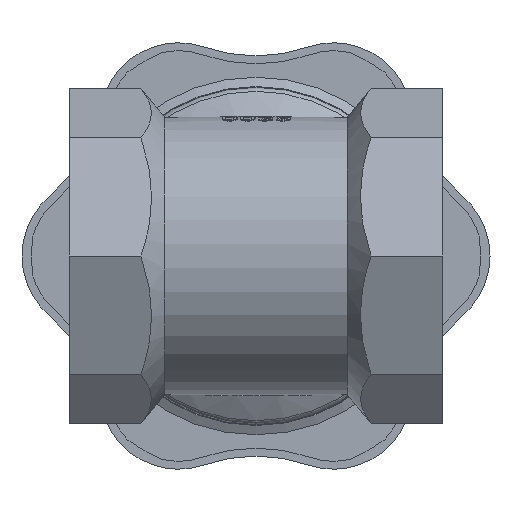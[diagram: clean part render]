
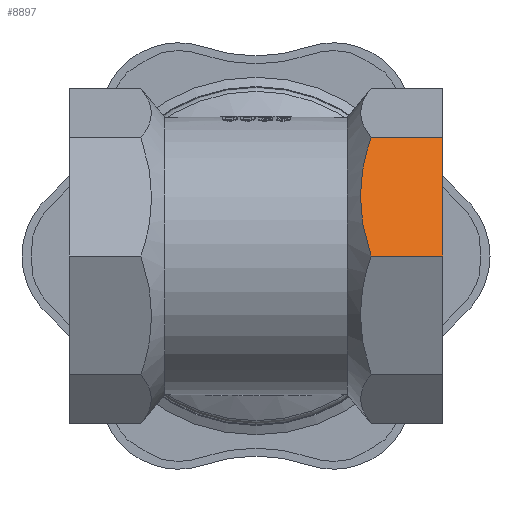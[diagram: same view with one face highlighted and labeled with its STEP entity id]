
A CAD part, front view. The second image highlights one B-rep face of the part: STEP entity #8897.
In plain terms, the highlighted planar face has unit normal (0, -0.924, 0.383).
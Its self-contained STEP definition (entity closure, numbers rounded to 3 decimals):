
#254=(
BOUNDED_CURVE()
B_SPLINE_CURVE(2,(#21237,#21238,#21239),.UNSPECIFIED.,.F.,.F.)
B_SPLINE_CURVE_WITH_KNOTS((3,3),(0.,1.638),.UNSPECIFIED.)
CURVE()
GEOMETRIC_REPRESENTATION_ITEM()
RATIONAL_B_SPLINE_CURVE((1.,1.082,1.))
REPRESENTATION_ITEM('')
);
#489=PLANE('',#9711);
#994=FACE_OUTER_BOUND('',#1534,.T.);
#1534=EDGE_LOOP('',(#7992,#7993,#7994,#7995));
#2394=LINE('',#21233,#2956);
#2396=LINE('',#21241,#2958);
#2397=LINE('',#21242,#2959);
#2956=VECTOR('',#11816,10.);
#2958=VECTOR('',#11820,10.);
#2959=VECTOR('',#11821,10.);
#4225=VERTEX_POINT('',#21228);
#4226=VERTEX_POINT('',#21232);
#4227=VERTEX_POINT('',#21236);
#4228=VERTEX_POINT('',#21240);
#5534=EDGE_CURVE('',#4226,#4225,#2394,.T.);
#5536=EDGE_CURVE('',#4227,#4225,#254,.T.);
#5537=EDGE_CURVE('',#4228,#4227,#2396,.T.);
#5538=EDGE_CURVE('',#4226,#4228,#2397,.T.);
#7992=ORIENTED_EDGE('',*,*,#5536,.F.);
#7993=ORIENTED_EDGE('',*,*,#5537,.F.);
#7994=ORIENTED_EDGE('',*,*,#5538,.F.);
#7995=ORIENTED_EDGE('',*,*,#5534,.T.);
#8897=ADVANCED_FACE('',(#994),#489,.T.);
#9711=AXIS2_PLACEMENT_3D('',#21235,#11818,#11819);
#11816=DIRECTION('',(-1.,0.,0.));
#11818=DIRECTION('center_axis',(0.,-0.924,0.383));
#11819=DIRECTION('ref_axis',(0.,0.383,0.924));
#11820=DIRECTION('',(-1.,0.,0.));
#11821=DIRECTION('',(0.,-0.383,-0.924));
#21228=CARTESIAN_POINT('',(14.5,-14.925,14.925));
#21232=CARTESIAN_POINT('',(23.5,-14.925,14.925));
#21233=CARTESIAN_POINT('',(19.,-14.925,14.925));
#21235=CARTESIAN_POINT('Origin',(23.5,-21.107,0.));
#21236=CARTESIAN_POINT('',(14.5,-21.107,0.));
#21237=CARTESIAN_POINT('Ctrl Pts',(14.5,-21.107,0.));
#21238=CARTESIAN_POINT('Ctrl Pts',(11.906,-18.016,7.462));
#21239=CARTESIAN_POINT('Ctrl Pts',(14.5,-14.925,14.925));
#21240=CARTESIAN_POINT('',(23.5,-21.107,0.));
#21241=CARTESIAN_POINT('',(19.,-21.107,0.));
#21242=CARTESIAN_POINT('',(23.5,-21.107,0.));
